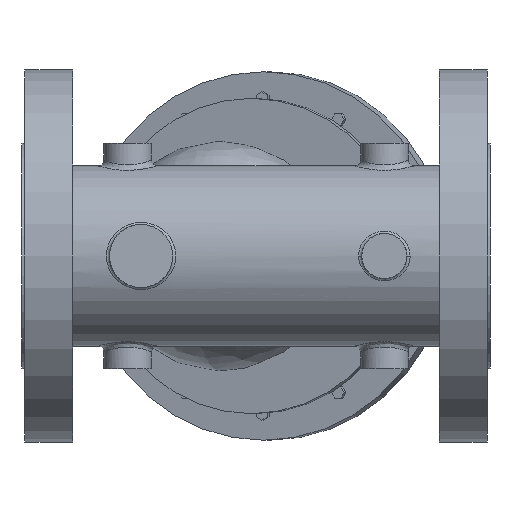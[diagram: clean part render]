
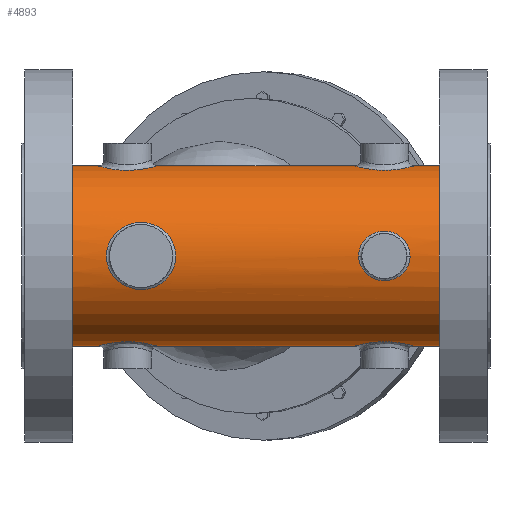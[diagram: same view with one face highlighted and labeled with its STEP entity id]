
A CAD part, front view. The second image highlights one B-rep face of the part: STEP entity #4893.
In plain terms, the highlighted cylindrical face has radius 50.8 mm (diameter 101.6 mm), a full revolution.
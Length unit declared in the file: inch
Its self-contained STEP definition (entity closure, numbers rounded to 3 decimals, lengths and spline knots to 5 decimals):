
#349=FACE_OUTER_BOUND('',#608,.T.);
#608=EDGE_LOOP('',(#3252,#3253,#3254,#3255,#3256,#3257,#3258,#3259,#3260,
#3261,#3262,#3263,#3264,#3265,#3266,#3267,#3268));
#947=CIRCLE('',#5174,2.);
#948=CIRCLE('',#5175,2.);
#949=CIRCLE('',#5176,2.);
#950=CIRCLE('',#5177,2.);
#1058=B_SPLINE_CURVE_WITH_KNOTS('',3,(#6819,#6820,#6821,#6822),
 .UNSPECIFIED.,.F.,.F.,(4,4),(-18.6025,-18.60249),
 .UNSPECIFIED.);
#1059=B_SPLINE_CURVE_WITH_KNOTS('',3,(#6824,#6825,#6826,#6827,#6828,#6829,
#6830,#6831,#6832,#6833),.UNSPECIFIED.,.F.,.F.,(4,1,1,1,1,1,1,4),(-10.43228,
-10.33472,-9.74416,-9.15361,-8.56305,
-7.9725,-7.08666,-6.20083),.UNSPECIFIED.);
#1060=B_SPLINE_CURVE_WITH_KNOTS('',3,(#6835,#6836,#6837,#6838,#6839,#6840),
 .UNSPECIFIED.,.F.,.F.,(4,1,1,4),(-12.40166,-12.10639,-11.51583,
-10.43228),.UNSPECIFIED.);
#1061=B_SPLINE_CURVE_WITH_KNOTS('',3,(#6847,#6848,#6849,#6850,#6851,#6852,
#6853,#6854),.UNSPECIFIED.,.F.,.F.,(4,1,1,1,1,4),(-14.37101,-13.87805,
-13.58277,-13.2875,-12.69694,-12.40166),
 .UNSPECIFIED.);
#1062=B_SPLINE_CURVE_WITH_KNOTS('',3,(#6855,#6856,#6857,#6858,#6859,#6860,
#6861,#6862),.UNSPECIFIED.,.F.,.F.,(4,1,1,1,1,4),(-18.60249,-17.71666,
-16.83083,-15.945,-15.05916,-14.37101),
 .UNSPECIFIED.);
#1063=B_SPLINE_CURVE_WITH_KNOTS('',3,(#6863,#6864,#6865,#6866,#6867,#6868,
#6869,#6870,#6871,#6872,#6873),.UNSPECIFIED.,.F.,.F.,(4,1,1,1,1,1,1,1,4),
(-5.76715,-5.49252,-5.12635,-4.39402,
-3.66168,-3.29551,-2.56318,-2.19701,
-1.92238),.UNSPECIFIED.);
#1103=LINE('',#6815,#1614);
#1104=LINE('',#6817,#1615);
#1105=LINE('',#6842,#1616);
#1106=LINE('',#6875,#1617);
#1614=VECTOR('',#5552,2.);
#1615=VECTOR('',#5553,2.);
#1616=VECTOR('',#5554,2.);
#1617=VECTOR('',#5559,2.);
#2125=VERTEX_POINT('',#6813);
#2126=VERTEX_POINT('',#6814);
#2127=VERTEX_POINT('',#6816);
#2128=VERTEX_POINT('',#6818);
#2129=VERTEX_POINT('',#6823);
#2130=VERTEX_POINT('',#6834);
#2131=VERTEX_POINT('',#6841);
#2132=VERTEX_POINT('',#6843);
#2133=VERTEX_POINT('',#6846);
#2134=VERTEX_POINT('',#6874);
#2135=VERTEX_POINT('',#6876);
#2582=EDGE_CURVE('',#2125,#2126,#1103,.T.);
#2583=EDGE_CURVE('',#2125,#2127,#1104,.T.);
#2584=EDGE_CURVE('',#2128,#2127,#1058,.T.);
#2585=EDGE_CURVE('',#2129,#2128,#1059,.T.);
#2586=EDGE_CURVE('',#2130,#2129,#1060,.T.);
#2587=EDGE_CURVE('',#2130,#2131,#1105,.T.);
#2588=EDGE_CURVE('',#2131,#2132,#947,.T.);
#2589=EDGE_CURVE('',#2132,#2131,#948,.T.);
#2590=EDGE_CURVE('',#2133,#2130,#1061,.T.);
#2591=EDGE_CURVE('',#2127,#2133,#1062,.T.);
#2592=EDGE_CURVE('',#2126,#2125,#1063,.T.);
#2593=EDGE_CURVE('',#2134,#2126,#1106,.T.);
#2594=EDGE_CURVE('',#2135,#2134,#949,.T.);
#2595=EDGE_CURVE('',#2134,#2135,#950,.T.);
#3252=ORIENTED_EDGE('',*,*,#2582,.F.);
#3253=ORIENTED_EDGE('',*,*,#2583,.T.);
#3254=ORIENTED_EDGE('',*,*,#2584,.F.);
#3255=ORIENTED_EDGE('',*,*,#2585,.F.);
#3256=ORIENTED_EDGE('',*,*,#2586,.F.);
#3257=ORIENTED_EDGE('',*,*,#2587,.T.);
#3258=ORIENTED_EDGE('',*,*,#2588,.T.);
#3259=ORIENTED_EDGE('',*,*,#2589,.T.);
#3260=ORIENTED_EDGE('',*,*,#2587,.F.);
#3261=ORIENTED_EDGE('',*,*,#2590,.F.);
#3262=ORIENTED_EDGE('',*,*,#2591,.F.);
#3263=ORIENTED_EDGE('',*,*,#2583,.F.);
#3264=ORIENTED_EDGE('',*,*,#2592,.F.);
#3265=ORIENTED_EDGE('',*,*,#2593,.F.);
#3266=ORIENTED_EDGE('',*,*,#2594,.F.);
#3267=ORIENTED_EDGE('',*,*,#2595,.F.);
#3268=ORIENTED_EDGE('',*,*,#2593,.T.);
#4592=CYLINDRICAL_SURFACE('',#5173,2.);
#4893=ADVANCED_FACE('',(#349),#4592,.T.);
#5173=AXIS2_PLACEMENT_3D('',#6812,#5550,#5551);
#5174=AXIS2_PLACEMENT_3D('',#6844,#5555,#5556);
#5175=AXIS2_PLACEMENT_3D('',#6845,#5557,#5558);
#5176=AXIS2_PLACEMENT_3D('',#6877,#5560,#5561);
#5177=AXIS2_PLACEMENT_3D('',#6878,#5562,#5563);
#5550=DIRECTION('center_axis',(1.,0.,0.));
#5551=DIRECTION('ref_axis',(0.,1.,0.));
#5552=DIRECTION('',(1.,0.,0.));
#5553=DIRECTION('',(-1.,0.,0.));
#5554=DIRECTION('',(-1.,0.,0.));
#5555=DIRECTION('center_axis',(1.,0.,0.));
#5556=DIRECTION('ref_axis',(0.,0.,-1.));
#5557=DIRECTION('center_axis',(1.,0.,0.));
#5558=DIRECTION('ref_axis',(0.,0.,-1.));
#5559=DIRECTION('',(-1.,0.,0.));
#5560=DIRECTION('center_axis',(1.,0.,0.));
#5561=DIRECTION('ref_axis',(0.,0.,-1.));
#5562=DIRECTION('center_axis',(1.,0.,0.));
#5563=DIRECTION('ref_axis',(0.,0.,-1.));
#6812=CARTESIAN_POINT('Origin',(0.,0.,0.));
#6813=CARTESIAN_POINT('',(2.28,-2.,0.));
#6814=CARTESIAN_POINT('',(3.42,-2.,0.));
#6815=CARTESIAN_POINT('',(0.,-2.,0.));
#6816=CARTESIAN_POINT('',(-1.78,-2.,0.));
#6817=CARTESIAN_POINT('',(0.,-2.,0.));
#6818=CARTESIAN_POINT('',(-1.78,-2.,0.));
#6819=CARTESIAN_POINT('Ctrl Pts',(-1.78,-2.,0.));
#6820=CARTESIAN_POINT('Ctrl Pts',(-1.78,-2.,0.));
#6821=CARTESIAN_POINT('Ctrl Pts',(-1.78,-2.,0.));
#6822=CARTESIAN_POINT('Ctrl Pts',(-1.78,-2.,0.));
#6823=CARTESIAN_POINT('',(-2.96848,-1.9,-0.6245));
#6824=CARTESIAN_POINT('Ctrl Pts',(-2.9685,-1.90002,-0.62454));
#6825=CARTESIAN_POINT('Ctrl Pts',(-2.95793,-1.89785,-0.63116));
#6826=CARTESIAN_POINT('Ctrl Pts',(-2.88209,-1.88284,-0.67614));
#6827=CARTESIAN_POINT('Ctrl Pts',(-2.72572,-1.85981,-0.73589));
#6828=CARTESIAN_POINT('Ctrl Pts',(-2.4909,-1.85269,-0.75328));
#6829=CARTESIAN_POINT('Ctrl Pts',(-2.26235,-1.87332,-0.70214));
#6830=CARTESIAN_POINT('Ctrl Pts',(-2.02894,-1.91949,-0.57106));
#6831=CARTESIAN_POINT('Ctrl Pts',(-1.83397,-1.97979,-0.33642));
#6832=CARTESIAN_POINT('Ctrl Pts',(-1.78,-2.,-0.11233));
#6833=CARTESIAN_POINT('Ctrl Pts',(-1.78,-2.,0.));
#6834=CARTESIAN_POINT('',(-3.32,-2.,0.));
#6835=CARTESIAN_POINT('Ctrl Pts',(-3.31998,-1.99998,0.00001));
#6836=CARTESIAN_POINT('Ctrl Pts',(-3.31997,-1.99997,-0.03743));
#6837=CARTESIAN_POINT('Ctrl Pts',(-3.31124,-1.99685,-0.14976));
#6838=CARTESIAN_POINT('Ctrl Pts',(-3.23382,-1.96943,-0.38987));
#6839=CARTESIAN_POINT('Ctrl Pts',(-3.08596,-1.92413,-0.55095));
#6840=CARTESIAN_POINT('Ctrl Pts',(-2.9685,-1.90002,-0.62454));
#6841=CARTESIAN_POINT('',(-4.07,-2.,0.));
#6842=CARTESIAN_POINT('',(0.,-2.,0.));
#6843=CARTESIAN_POINT('',(-4.07,2.,0.));
#6844=CARTESIAN_POINT('Origin',(-4.07,0.,0.));
#6845=CARTESIAN_POINT('Origin',(-4.07,0.,0.));
#6846=CARTESIAN_POINT('',(-2.96848,-1.9,0.6245));
#6847=CARTESIAN_POINT('Ctrl Pts',(-2.96835,-1.90002,0.62449));
#6848=CARTESIAN_POINT('Ctrl Pts',(-3.02187,-1.91102,0.59103));
#6849=CARTESIAN_POINT('Ctrl Pts',(-3.10045,-1.93032,0.52749));
#6850=CARTESIAN_POINT('Ctrl Pts',(-3.18771,-1.95577,0.42175));
#6851=CARTESIAN_POINT('Ctrl Pts',(-3.2648,-1.98033,0.29366));
#6852=CARTESIAN_POINT('Ctrl Pts',(-3.31129,-1.99691,0.14976));
#6853=CARTESIAN_POINT('Ctrl Pts',(-3.31998,-1.99999,0.03745));
#6854=CARTESIAN_POINT('Ctrl Pts',(-3.31998,-1.99998,0.00001));
#6855=CARTESIAN_POINT('Ctrl Pts',(-1.78,-2.,0.));
#6856=CARTESIAN_POINT('Ctrl Pts',(-1.78,-2.,0.11233));
#6857=CARTESIAN_POINT('Ctrl Pts',(-1.83408,-1.97977,0.33647));
#6858=CARTESIAN_POINT('Ctrl Pts',(-2.05308,-1.91199,0.60028));
#6859=CARTESIAN_POINT('Ctrl Pts',(-2.37007,-1.8543,0.74999));
#6860=CARTESIAN_POINT('Ctrl Pts',(-2.70326,-1.85427,0.75004));
#6861=CARTESIAN_POINT('Ctrl Pts',(-2.89365,-1.88466,0.6712));
#6862=CARTESIAN_POINT('Ctrl Pts',(-2.96835,-1.90002,0.62449));
#6863=CARTESIAN_POINT('Ctrl Pts',(3.42008,-2.00007,-0.00009));
#6864=CARTESIAN_POINT('Ctrl Pts',(3.42004,-2.00003,0.04133));
#6865=CARTESIAN_POINT('Ctrl Pts',(3.40858,-1.99684,0.13809));
#6866=CARTESIAN_POINT('Ctrl Pts',(3.32971,-1.97693,0.33177));
#6867=CARTESIAN_POINT('Ctrl Pts',(3.11387,-1.93115,0.52625));
#6868=CARTESIAN_POINT('Ctrl Pts',(2.81846,-1.9169,0.56968));
#6869=CARTESIAN_POINT('Ctrl Pts',(2.54289,-1.94106,0.48673));
#6870=CARTESIAN_POINT('Ctrl Pts',(2.37046,-1.97652,0.33202));
#6871=CARTESIAN_POINT('Ctrl Pts',(2.29126,-1.99706,0.13797));
#6872=CARTESIAN_POINT('Ctrl Pts',(2.28013,-1.99993,0.04136));
#6873=CARTESIAN_POINT('Ctrl Pts',(2.28012,-1.99993,-0.00004));
#6874=CARTESIAN_POINT('',(4.07,-2.,0.));
#6875=CARTESIAN_POINT('',(0.,-2.,0.));
#6876=CARTESIAN_POINT('',(4.07,2.,0.));
#6877=CARTESIAN_POINT('Origin',(4.07,0.,0.));
#6878=CARTESIAN_POINT('Origin',(4.07,0.,0.));
